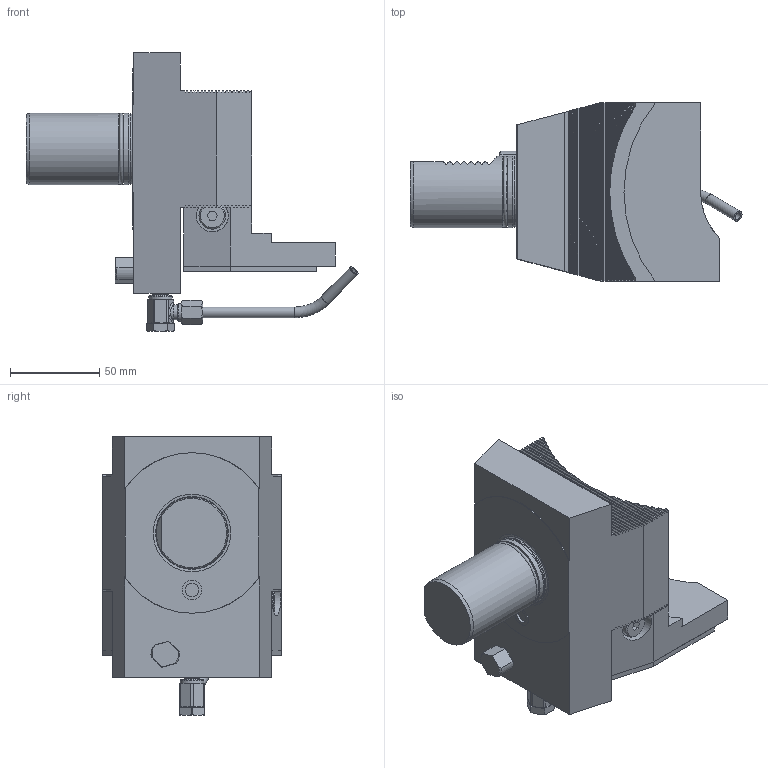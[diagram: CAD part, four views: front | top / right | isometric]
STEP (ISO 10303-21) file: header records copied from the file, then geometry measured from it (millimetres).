
FILE_DESCRIPTION(/* description */ (''),/* implementation_level */ '2;1');
FILE_NAME(/* name */ '171516',/* time_stamp */ '2020-11-16T13:56:48+01:00',/* author */ (''),/* organization */ (''),/* preprocessor_version */ 'ST-DEVELOPER v16.5',/* originating_system */ 'HiCAD 2017 2201.0 Build 268',/* authorisation */ '');
FILE_SCHEMA (('AUTOMOTIVE_DESIGN { 1 0 10303 214 1 1 1 1 }'));
Products named in the file (44): Root; Baugruppe_Baugruppe; Leeres Teil; 173501_Kantsealring 7.65x1.68_260*; 113942_O-Ring 36x2_270*; TORUS_1_260*; Leeres Teil_250*; ROTATIONSTEIL_0; DIN 13-M10x1; ROTATIONSTEIL_1; DIN 13-M10; ZYLINDER_0; ROTATIONSTEIL_2; Normteilgruppe _0; ISO 10642-M 4x10-8.8_Senkschraube ISO 10642-M 4x10-8.8_200*; GEWINDE; DIN 912      (Innensechskant)_Zylinderschraube 5x35_210*; ROTATIONSTEIL_0_140*; DIN 13-M6x0,75; 00021672_130*; 00021672_110*; 00021672_120*; 00087070
Assembly tree (43 placements, depth 7):
  Root
    Baugruppe_Baugruppe
      Leeres Teil
        173501_Kantsealring 7.65x1.68_260*
        113942_O-Ring 36x2_270*
        Leeres Teil
          TORUS_1_260*
          Leeres Teil_250*
            ROTATIONSTEIL_0
              DIN 13-M10x1
            ROTATIONSTEIL_1
              DIN 13-M10
            ZYLINDER_0
            ROTATIONSTEIL_2
              DIN 13-M10x1
      Leeres Teil
        Normteilgruppe _0
          ISO 10642-M 4x10-8.8_Senkschraube ISO 10642-M 4x10-8.8_200*
            GEWINDE
          ISO 10642-M 4x10-8.8_Senkschraube ISO 10642-M 4x10-8.8_200*
            GEWINDE
          ISO 10642-M 4x10-8.8_Senkschraube ISO 10642-M 4x10-8.8_200*
            GEWINDE
          ISO 10642-M 4x10-8.8_Senkschraube ISO 10642-M 4x10-8.8_200*
            GEWINDE
          ISO 10642-M 4x10-8.8_Senkschraube ISO 10642-M 4x10-8.8_200*
            GEWINDE
          ISO 10642-M 4x10-8.8_Senkschraube ISO 10642-M 4x10-8.8_200*
            GEWINDE
        DIN 912      (Innensechskant)_Zylinderschraube 5x35_210*
          GEWINDE
        DIN 912      (Innensechskant)_Zylinderschraube 5x35_210*
          GEWINDE
        DIN 912      (Innensechskant)_Zylinderschraube 5x35_210*
          GEWINDE
        DIN 912      (Innensechskant)_Zylinderschraube 5x35_210*
          GEWINDE
        ROTATIONSTEIL_0_140*
          DIN 13-M6x0,75
        00021672_130*
        00021672_110*
        00021672_120*
      00087070
      ROTATIONSTEIL_0
Bounding box: 186.19 x 100 x 156.26 mm (x, y, z)
Volume: 713982.9 mm3; surface area: 117225.2 mm2
Topology: 33 solids, 33 shells, 796 faces, 2120 edges, 1403 vertices
Faces by surface type: plane 518, cylinder 192, cone 71, torus 13, bspline 2
Full cylindrical faces by diameter (mm): 3.1 x2, 4 x8, 4.5 x8, 4.6 x1, 5.2 x2, 6 x5, 6.2 x1, 7.5 x1, 7.65 x1, 8 x7, 8.16 x1, 8.4 x2, 8.5 x4, 8.6 x1, 8.773 x4, 9.9 x1, 10 x6, 10.5 x1, 10.8 x1, 11.01 x1, 11.1 x2, 13.2 x1, 15 x1, 36.5 x1, 39.4 x1, 40 x2
Entity records: 48614 total; most frequent: CARTESIAN_POINT 9347, DIRECTION 4219, PRESENTATION_STYLE_ASSIGNMENT 3855, DRAUGHTING_PRE_DEFINED_CURVE_FONT 3822, CURVE_STYLE 3822, OVER_RIDING_STYLED_ITEM 3822, ORIENTED_EDGE 3822, COLOUR_RGB 3817
